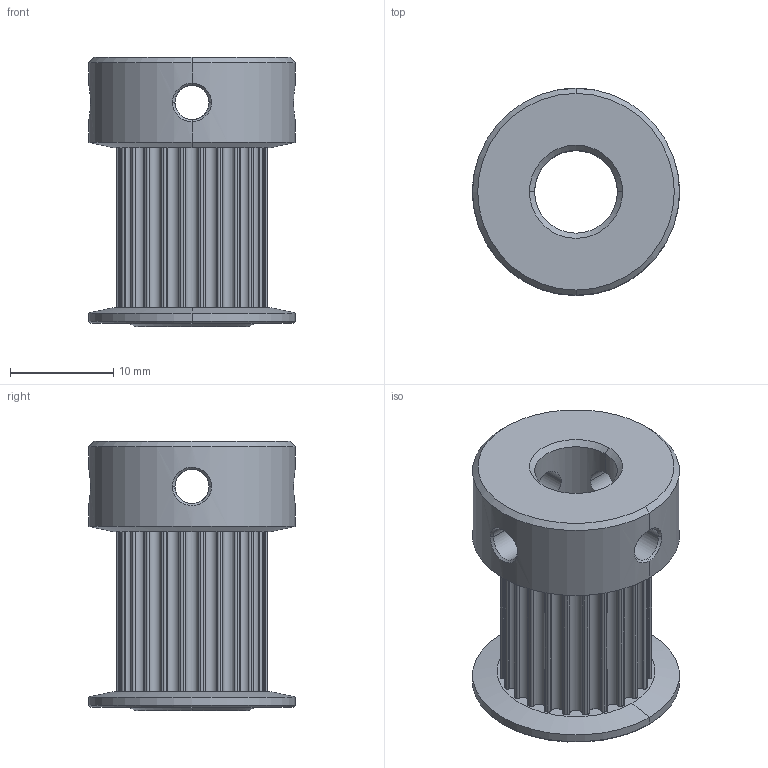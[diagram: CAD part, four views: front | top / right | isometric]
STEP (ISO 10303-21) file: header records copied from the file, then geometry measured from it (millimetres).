
FILE_DESCRIPTION((''),'2;1');
FILE_NAME('HTD2M-24','2021-07-02T08:47:16',('Administrator'),(''),'CREO PARAMETRIC BY PTC INC, 2016390','CREO PARAMETRIC BY PTC INC, 2016390','');
FILE_SCHEMA(('CONFIG_CONTROL_DESIGN'));
Length unit declared in the file: millimetre
Products named in the file (1): HTD2M-24
Bounding box: 20 x 20 x 26 mm (x, y, z)
Volume: 3952.6 mm3; surface area: 3287.5 mm2
Topology: 1 solids, 1 shells, 191 faces, 544 edges, 354 vertices
Faces by surface type: cylinder 112, plane 53, cone 14, bspline 12
Entity records: 7358 total; most frequent: CARTESIAN_POINT 2225, DIRECTION 1088, ORIENTED_EDGE 1088, EDGE_CURVE 544, AXIS2_PLACEMENT_3D 401, VERTEX_POINT 354, VECTOR 286, LINE 286
